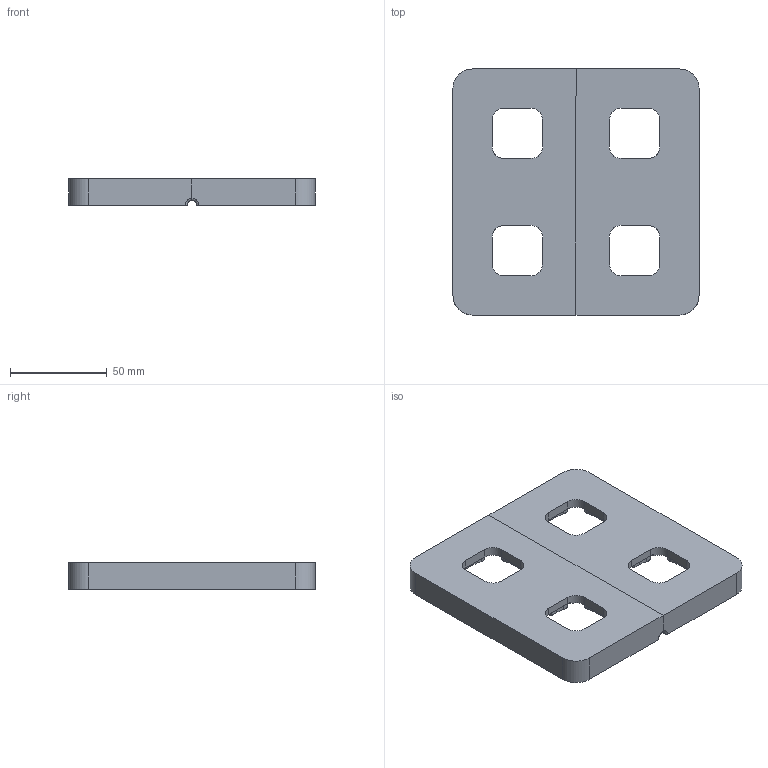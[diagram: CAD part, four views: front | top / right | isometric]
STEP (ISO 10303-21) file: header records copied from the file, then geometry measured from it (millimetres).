
FILE_DESCRIPTION(/* description */ (''),/* implementation_level */ '2;1');
FILE_NAME(/* name */ '240803-DIYUTM-Base',/* time_stamp */ '2024-08-03T10:07:32+02:00',/* author */ (''),/* organization */ (''),/* preprocessor_version */ 'ST-DEVELOPER v16.5',/* originating_system */ 'Rhino 7.37',/* authorisation */ '');
FILE_SCHEMA (('CONFIG_CONTROL_DESIGN'));
Length unit declared in the file: millimetre
Products named in the file (1): Document
Bounding box: 127.07 x 127.07 x 13.6 mm (x, y, z)
Volume: 139369.5 mm3; surface area: 44146.6 mm2
Topology: 1 solids, 1 shells, 278 faces, 765 edges, 497 vertices
Faces by surface type: cylinder 124, plane 106, bspline 48
Entity records: 9566 total; most frequent: CARTESIAN_POINT 4916, ORIENTED_EDGE 1514, EDGE_CURVE 757, VERTEX_POINT 497, EDGE_LOOP 302, ADVANCED_FACE 278, FACE_OUTER_BOUND 278, DIRECTION 233
